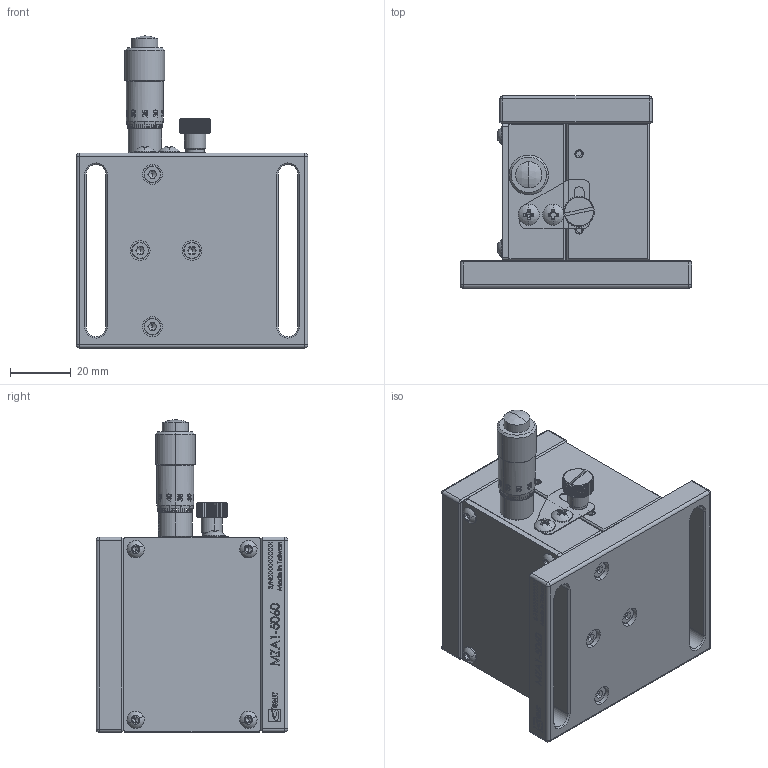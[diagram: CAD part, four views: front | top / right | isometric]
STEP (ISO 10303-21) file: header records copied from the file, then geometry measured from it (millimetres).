
FILE_DESCRIPTION (( 'STEP AP203' ), '1' );
FILE_NAME ('MZA1-5060.STEP', '2011-01-26T10:32:10', ( 'user' ), ( '' ), 'SwSTEP 2.0', 'SolidWorks 2007', '' );
FILE_SCHEMA (( 'CONFIG_CONTROL_DESIGN' ));
Length unit declared in the file: millimetre
Products named in the file (1): MZA1-5060
Bounding box: 76 x 63 x 102.57 mm (x, y, z)
Surface area: 39031.7 mm2 (no closed solid volume)
Topology: 0 solids, 88 shells, 738 faces, 3704 edges, 2928 vertices
Faces by surface type: plane 367, cylinder 171, cone 107, bspline 55, sphere 22, torus 16
Entity records: 47230 total; most frequent: CARTESIAN_POINT 20030, DIRECTION 5105, ORIENTED_EDGE 5037, EDGE_CURVE 3670, VERTEX_POINT 2928, AXIS2_PLACEMENT_3D 1702, VECTOR 1701, LINE 1701
